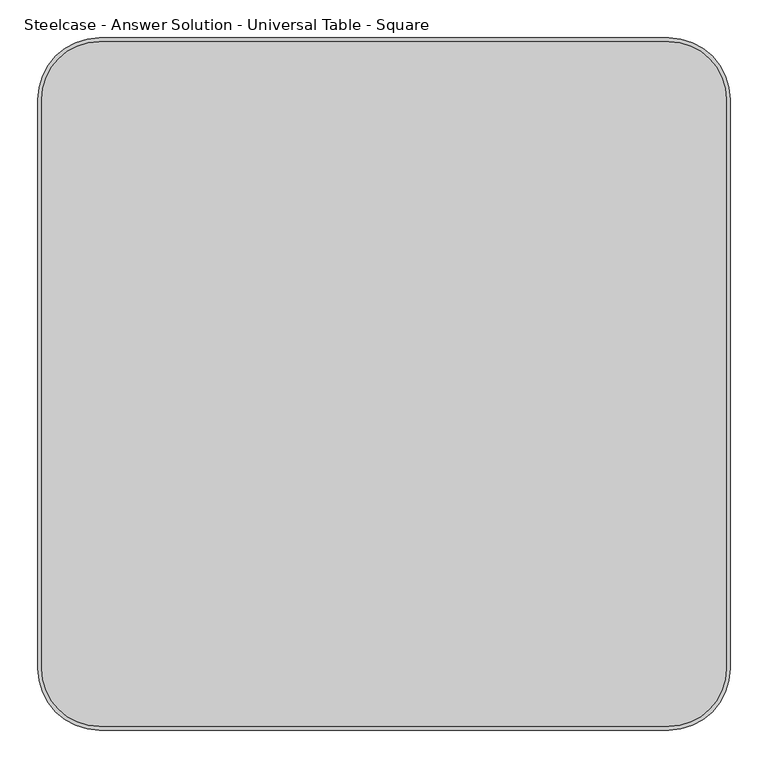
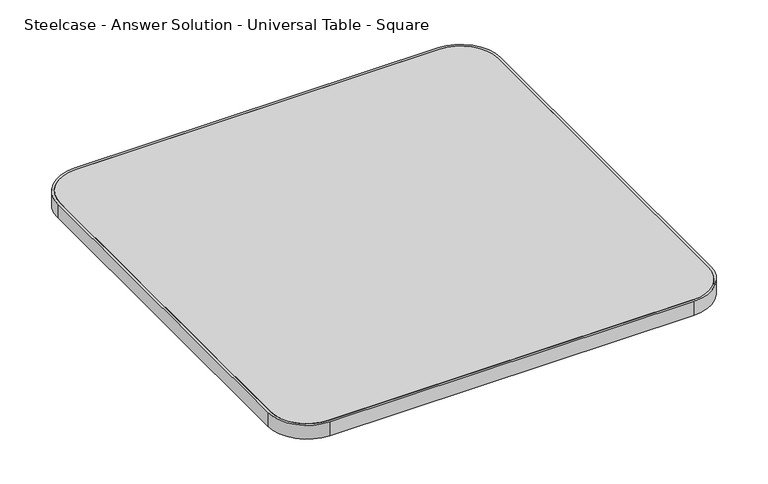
"""IFC4 building model written with IfcOpenShell, lengths in millimetres: furniture geometry, Steelcase - Answer Solution - Universal Table - Square : 36D x 36W."""

from ifc_helpers import new_model, si_unit, point, frame, frame_2d, origin, place, context, project, spatial, polyline, circle_curve, trimmed, segment, composite_curve, outline, extrude, source, transform, mapped, element, save


def steelcase_answer_solution_universal_table_square_bafa552c(model_context):
    return source(origin(), model_context, "Body", "SweptSolid", [
        extrude(outline(composite_curve([segment(polyline([(5.08, -833.12), (5.08, -81.28)]), True, "CONTINUOUS"), segment(trimmed(circle_curve(frame_2d((81.28, -81.28)), 76.2), [point((5.08, -81.28))], [point((81.28, -5.08))], False, "CARTESIAN"), True, "CONTINUOUS"), segment(polyline([(81.28, -5.08), (833.12, -5.08)]), True, "CONTINUOUS"), segment(trimmed(circle_curve(frame_2d((833.12, -81.28)), 76.2), [point((833.12, -5.08))], [point((909.32, -81.28))], False, "CARTESIAN"), True, "CONTINUOUS"), segment(polyline([(909.32, -81.28), (909.32, -833.12)]), True, "CONTINUOUS"), segment(trimmed(circle_curve(frame_2d((833.12, -833.12)), 76.2), [point((909.32, -833.12))], [point((833.12, -909.32))], False, "CARTESIAN"), True, "CONTINUOUS"), segment(polyline([(833.12, -909.32), (81.28, -909.32)]), True, "CONTINUOUS"), segment(trimmed(circle_curve(frame_2d((81.28, -833.12)), 76.2), [point((81.28, -909.32))], [point((5.08, -833.12))], False, "CARTESIAN"), True, "CONTINUOUS")], self_intersect=False)), frame((0.0, 0.0, 668.274), z_axis=(0.0, 0.0, 1.0), x_axis=(1.0, 0.0, 0.0)), (0.0, 0.0, 1.0), 30.0990349),
        extrude(outline(composite_curve([segment(polyline([(81.28, 0.0), (833.12, 0.0)]), True, "CONTINUOUS"), segment(trimmed(circle_curve(frame_2d((833.12, -81.28)), 81.28), [point((833.12, 0.0))], [point((914.4, -81.28))], False, "CARTESIAN"), True, "CONTINUOUS"), segment(polyline([(914.4, -81.28), (914.4, -833.12)]), True, "CONTINUOUS"), segment(trimmed(circle_curve(frame_2d((833.12, -833.12)), 81.28), [point((914.4, -833.12))], [point((833.12, -914.4))], False, "CARTESIAN"), True, "CONTINUOUS"), segment(polyline([(833.12, -914.4), (81.28, -914.4)]), True, "CONTINUOUS"), segment(trimmed(circle_curve(frame_2d((81.28, -833.12)), 81.28), [point((81.28, -914.4))], [point((0.0, -833.12))], False, "CARTESIAN"), True, "CONTINUOUS"), segment(polyline([(0.0, -833.12), (0.0, -81.28)]), True, "CONTINUOUS"), segment(trimmed(circle_curve(frame_2d((81.28, -81.28)), 81.28), [point((0.0, -81.28))], [point((81.28, 0.0))], False, "CARTESIAN"), True, "CONTINUOUS")], self_intersect=False), holes=[composite_curve([segment(trimmed(circle_curve(frame_2d((81.28, -81.28)), 76.2), [point((81.28, -5.08))], [point((5.08, -81.28))], True, "CARTESIAN"), True, "CONTINUOUS"), segment(polyline([(5.08, -81.28), (5.08, -833.12)]), True, "CONTINUOUS"), segment(trimmed(circle_curve(frame_2d((81.28, -833.12)), 76.2), [point((5.08, -833.12))], [point((81.28, -909.32))], True, "CARTESIAN"), True, "CONTINUOUS"), segment(polyline([(81.28, -909.32), (833.12, -909.32)]), True, "CONTINUOUS"), segment(trimmed(circle_curve(frame_2d((833.12, -833.12)), 76.2), [point((833.12, -909.32))], [point((909.32, -833.12))], True, "CARTESIAN"), True, "CONTINUOUS"), segment(polyline([(909.32, -833.12), (909.32, -81.28)]), True, "CONTINUOUS"), segment(trimmed(circle_curve(frame_2d((833.12, -81.28)), 76.2), [point((909.32, -81.28))], [point((833.12, -5.08))], True, "CARTESIAN"), True, "CONTINUOUS"), segment(polyline([(833.12, -5.08), (81.28, -5.08)]), True, "CONTINUOUS")], self_intersect=False)]), frame((0.0, 0.0, 668.274), z_axis=(0.0, 0.0, 1.0), x_axis=(1.0, 0.0, 0.0)), (0.0, 0.0, 1.0), 30.0990349),
    ])


if __name__ == "__main__":
    model = new_model("IFC4")
    model_context = context("Model", 3, world=origin())
    ifc_project = project(units=[si_unit("LENGTHUNIT", "METRE", prefix="MILLI")], contexts=[model_context])
    site = spatial("IfcSite", under=ifc_project)
    building = spatial("IfcBuilding", under=site)
    placement = place(None, origin())
    steelcase_answer_solution_universal_table_square_shape = steelcase_answer_solution_universal_table_square_bafa552c(model_context)
    element("IfcFurniture", 1, ObjectType="Steelcase - Answer Solution - Universal Table - Square : 36D x 36W", at=placement, inside=building, context=model_context, shape_type="MappedRepresentation", body=[
        mapped(steelcase_answer_solution_universal_table_square_shape, transform((0.0, 0.0, 0.0), x_axis=(1.0, 0.0, 0.0), y_axis=(0.0, 1.0, 0.0), z_axis=(0.0, 0.0, 1.0))),
    ])
    save(model, "model.ifc")
